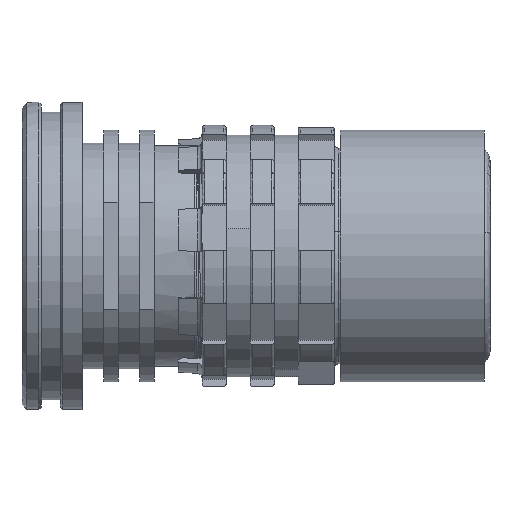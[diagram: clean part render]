
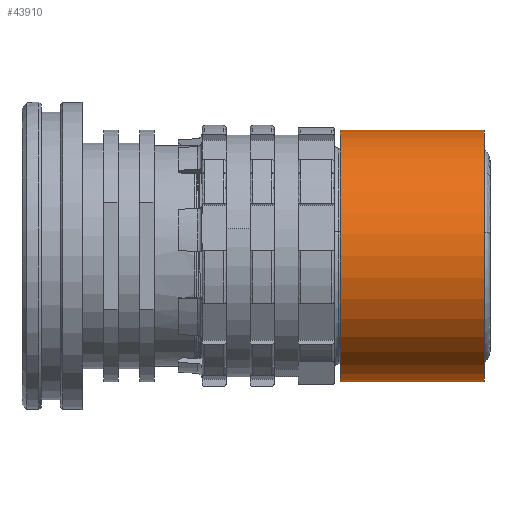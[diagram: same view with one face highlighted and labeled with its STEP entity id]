
A CAD part, top view. The second image highlights one B-rep face of the part: STEP entity #43910.
In plain terms, the highlighted cylindrical face has radius 5.25 mm (diameter 10.5 mm), a partial arc.
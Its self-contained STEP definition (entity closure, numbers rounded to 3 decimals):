
#43569=CARTESIAN_POINT('',(19.25,0.,0.));
#43570=DIRECTION('',(-1.,0.,0.));
#43571=DIRECTION('',(0.,-1.,0.));
#43572=AXIS2_PLACEMENT_3D('',#43569,#43570,#43571);
#43599=DIRECTION('',(1.,0.,0.));
#43600=VECTOR('',#43599,6.);
#43601=CARTESIAN_POINT('',(13.25,5.25,0.));
#43602=LINE('',#43601,#43600);
#43603=DIRECTION('',(1.,0.,0.));
#43604=VECTOR('',#43603,6.);
#43605=CARTESIAN_POINT('',(13.25,-5.25,0.));
#43606=LINE('',#43605,#43604);
#43612=CARTESIAN_POINT('',(13.25,0.,0.));
#43613=DIRECTION('',(1.,0.,0.));
#43614=DIRECTION('',(0.,1.,0.));
#43615=AXIS2_PLACEMENT_3D('',#43612,#43613,#43614);
#43717=CARTESIAN_POINT('',(13.25,-5.25,0.));
#43718=CARTESIAN_POINT('',(13.25,5.25,0.));
#43719=VERTEX_POINT('',#43717);
#43720=VERTEX_POINT('',#43718);
#43721=CARTESIAN_POINT('',(19.25,5.25,0.));
#43722=VERTEX_POINT('',#43721);
#43723=CARTESIAN_POINT('',(19.25,-5.25,0.));
#43724=VERTEX_POINT('',#43723);
#43896=CARTESIAN_POINT('',(12.95,0.,0.));
#43897=DIRECTION('',(1.,0.,0.));
#43898=DIRECTION('',(0.,-1.,0.));
#43899=AXIS2_PLACEMENT_3D('',#43896,#43897,#43898);
#43900=CYLINDRICAL_SURFACE('',#43899,5.25);
#43902=ORIENTED_EDGE('',*,*,#43901,.T.);
#43903=ORIENTED_EDGE('',*,*,#43876,.F.);
#43905=ORIENTED_EDGE('',*,*,#43904,.F.);
#43907=ORIENTED_EDGE('',*,*,#43906,.F.);
#43908=EDGE_LOOP('',(#43902,#43903,#43905,#43907));
#43909=FACE_OUTER_BOUND('',#43908,.F.);
#43573=CIRCLE('',#43572,5.25);
#43616=CIRCLE('',#43615,5.25);
#43876=EDGE_CURVE('',#43724,#43722,#43573,.T.);
#43901=EDGE_CURVE('',#43720,#43722,#43602,.T.);
#43904=EDGE_CURVE('',#43719,#43724,#43606,.T.);
#43906=EDGE_CURVE('',#43720,#43719,#43616,.T.);
#43910=ADVANCED_FACE('',(#43909),#43900,.T.);
